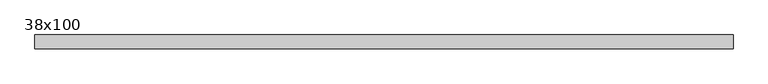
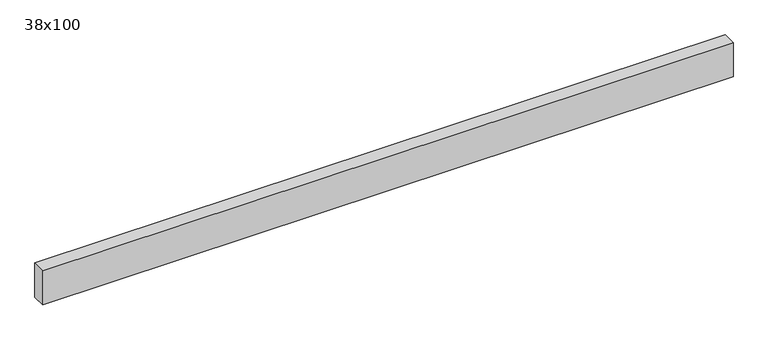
"""IFC4 building model written with IfcOpenShell, lengths in millimetres: beam geometry, Poutre - Bois de construction de dimensions courantes : 38x100."""

from ifc_helpers import new_model, si_unit, frame, origin, place, context, project, spatial, polyline, outline, extrude, source, transform, mapped, element, save


def beam_38x100_b3f434a7(model_context):
    return source(origin(), model_context, "Body", "SweptSolid", [
        extrude(outline(polyline([(981.0, 19.05), (981.0, -19.05), (-937.0, -19.05), (-937.0, 19.05), (981.0, 19.05)])), frame((0.0, 0.0, -50.0), z_axis=(0.0, 0.0, 1.0), x_axis=(1.0, 0.0, 0.0)), (0.0, 0.0, 1.0), 100.0),
    ])


if __name__ == "__main__":
    model = new_model("IFC4")
    model_context = context("Model", 3, world=origin())
    ifc_project = project(units=[si_unit("LENGTHUNIT", "METRE", prefix="MILLI")], contexts=[model_context])
    site = spatial("IfcSite", under=ifc_project)
    building = spatial("IfcBuilding", under=site)
    placement = place(None, origin())
    beam_38x100_shape = beam_38x100_b3f434a7(model_context)
    element("IfcBeam", 1, ObjectType="Poutre - Bois de construction de dimensions courantes : 38x100", at=placement, inside=building, context=model_context, shape_type="MappedRepresentation", body=[
        mapped(beam_38x100_shape, transform((0.0, 0.0, 0.0), x_axis=(1.0, 0.0, 0.0), y_axis=(0.0, 1.0, 0.0), z_axis=(0.0, 0.0, 1.0))),
    ])
    save(model, "model.ifc")
